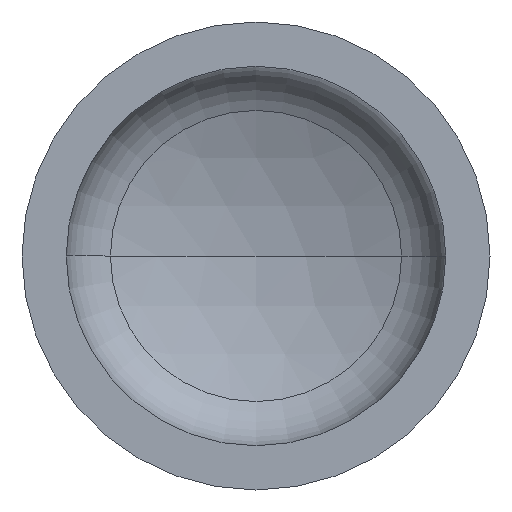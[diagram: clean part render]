
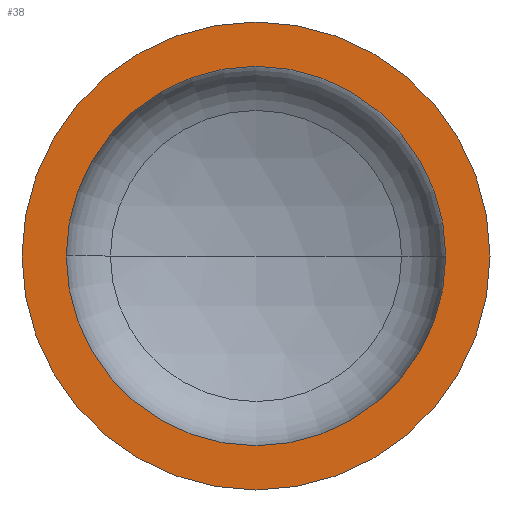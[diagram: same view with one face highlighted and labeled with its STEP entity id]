
A CAD part, front view. The second image highlights one B-rep face of the part: STEP entity #38.
In plain terms, the highlighted planar face has unit normal (0, -1, 0).
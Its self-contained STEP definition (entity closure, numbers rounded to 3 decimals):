
#11 = EDGE_LOOP ( 'NONE', ( #96, #33 ) ) ;
#33 = ORIENTED_EDGE ( 'NONE', *, *, #396, .T. ) ;
#38 = ADVANCED_FACE ( 'NONE', ( #213, #149 ), #349, .F. ) ;
#50 = AXIS2_PLACEMENT_3D ( 'NONE', #91, #274, #275 ) ;
#56 = AXIS2_PLACEMENT_3D ( 'NONE', #153, #392, #399 ) ;
#67 = VERTEX_POINT ( 'NONE', #282 ) ;
#70 = CARTESIAN_POINT ( 'NONE',  ( -550., 0., 0. ) ) ;
#75 = EDGE_LOOP ( 'NONE', ( #79, #156 ) ) ;
#79 = ORIENTED_EDGE ( 'NONE', *, *, #407, .F. ) ;
#90 = CARTESIAN_POINT ( 'NONE',  ( -550., 0., 0. ) ) ;
#91 = CARTESIAN_POINT ( 'NONE',  ( 0., 0., 0. ) ) ;
#96 = ORIENTED_EDGE ( 'NONE', *, *, #359, .T. ) ;
#104 = DIRECTION ( 'NONE',  ( 0., -1., 0. ) ) ;
#143 = VERTEX_POINT ( 'NONE', #325 ) ;
#149 = FACE_OUTER_BOUND ( 'NONE', #11, .T. ) ;
#153 = CARTESIAN_POINT ( 'NONE',  ( 0., 0., 0. ) ) ;
#156 = ORIENTED_EDGE ( 'NONE', *, *, #262, .F. ) ;
#171 = AXIS2_PLACEMENT_3D ( 'NONE', #90, #291, #258 ) ;
#174 = VERTEX_POINT ( 'NONE', #316 ) ;
#188 = DIRECTION ( 'NONE',  ( 0., -1., 0. ) ) ;
#213 = FACE_BOUND ( 'NONE', #75, .T. ) ;
#230 = CIRCLE ( 'NONE', #357, 446. ) ;
#258 = DIRECTION ( 'NONE',  ( -1., 0., 0. ) ) ;
#261 = CIRCLE ( 'NONE', #50, 550. ) ;
#262 = EDGE_CURVE ( 'NONE', #143, #67, #273, .T. ) ;
#273 = CIRCLE ( 'NONE', #56, 446. ) ;
#274 = DIRECTION ( 'NONE',  ( 0., -1., 0. ) ) ;
#275 = DIRECTION ( 'NONE',  ( 1., 0., 0. ) ) ;
#282 = CARTESIAN_POINT ( 'NONE',  ( 446., 0., 0. ) ) ;
#291 = DIRECTION ( 'NONE',  ( 0., 1., 0. ) ) ;
#292 = CIRCLE ( 'NONE', #324, 550. ) ;
#300 = CARTESIAN_POINT ( 'NONE',  ( 0., 0., 0. ) ) ;
#307 = VERTEX_POINT ( 'NONE', #70 ) ;
#316 = CARTESIAN_POINT ( 'NONE',  ( 550., 0., 0. ) ) ;
#324 = AXIS2_PLACEMENT_3D ( 'NONE', #300, #104, #332 ) ;
#325 = CARTESIAN_POINT ( 'NONE',  ( -446., 0., 0. ) ) ;
#332 = DIRECTION ( 'NONE',  ( 1., 0., 0. ) ) ;
#349 = PLANE ( 'NONE',  #171 ) ;
#354 = CARTESIAN_POINT ( 'NONE',  ( 0., 0., 0. ) ) ;
#357 = AXIS2_PLACEMENT_3D ( 'NONE', #354, #188, #380 ) ;
#359 = EDGE_CURVE ( 'NONE', #174, #307, #261, .T. ) ;
#380 = DIRECTION ( 'NONE',  ( 1., 0., 0. ) ) ;
#392 = DIRECTION ( 'NONE',  ( 0., -1., 0. ) ) ;
#396 = EDGE_CURVE ( 'NONE', #307, #174, #292, .T. ) ;
#399 = DIRECTION ( 'NONE',  ( 1., 0., 0. ) ) ;
#407 = EDGE_CURVE ( 'NONE', #67, #143, #230, .T. ) ;
